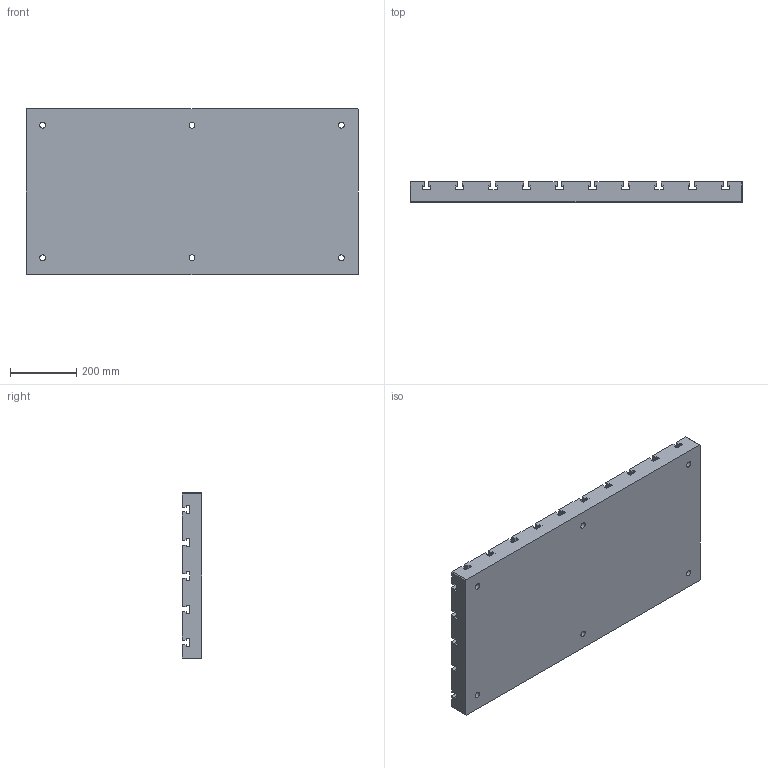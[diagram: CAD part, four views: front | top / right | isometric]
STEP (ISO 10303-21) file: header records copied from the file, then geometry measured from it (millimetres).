
FILE_DESCRIPTION((''),'2;1');
FILE_NAME('FG_WH_BASPL_RCTSLNP005','2026-05-17T11:04:24',('Admin'),(''),'CREO PARAMETRIC BY PTC INC, 2025010','CREO PARAMETRIC BY PTC INC, 2025010','');
FILE_SCHEMA(('CONFIG_CONTROL_DESIGN'));
Length unit declared in the file: millimetre
Products named in the file (1): FG_WH_BASPL_RCTSLNP005
Bounding box: 1000 x 60 x 500 mm (x, y, z)
Volume: 25934641.9 mm3; surface area: 1726004 mm2
Topology: 1 solids, 1 shells, 657 faces, 1740 edges, 1160 vertices
Faces by surface type: plane 615, cylinder 42
Entity records: 20068 total; most frequent: CARTESIAN_POINT 3557, ORIENTED_EDGE 3480, DIRECTION 3146, EDGE_CURVE 1740, VECTOR 1648, LINE 1648, VERTEX_POINT 1160, AXIS2_PLACEMENT_3D 749
